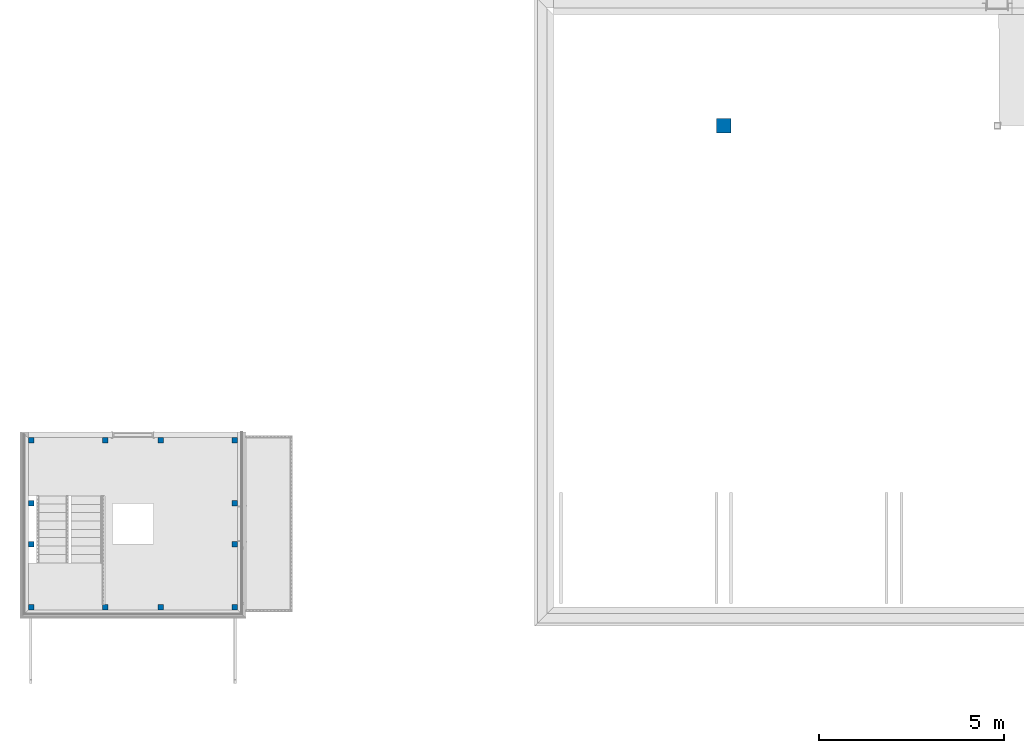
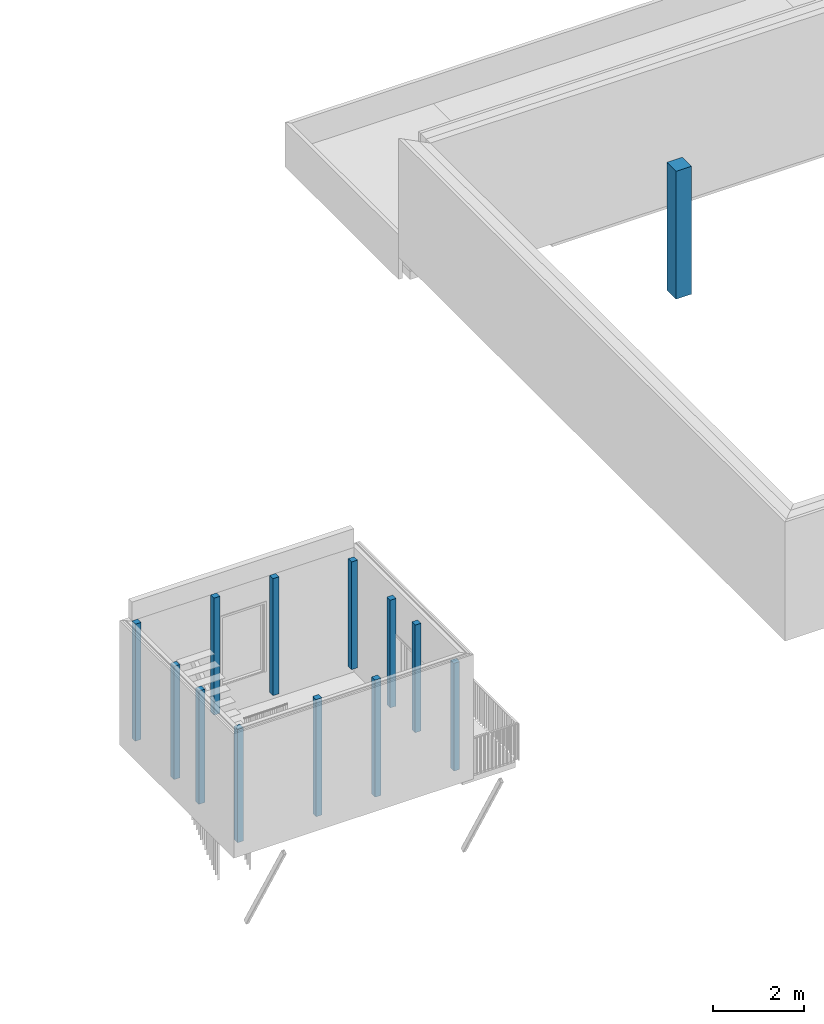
# One storey, part 1 of 100: 13 columns.
"""IFC2X3 building model written with IfcOpenShell, lengths in millimetres."""

from ifc_helpers import new_model, entity, si_unit, converted_unit, derived_unit, money_unit, direction, frame, origin_with_axes, origin_2d_with_axis, place, context, subcontext, project, spatial, rectangle, extrude, material, type_object, element, save


model = new_model("IFC2X3")

# Units and contexts
model_context = context("Model", 3, precision=0.01, world=origin_with_axes(), true_north=direction((0.0, 1.0)))
body_context = subcontext(model_context, "Body", "Model", "MODEL_VIEW")
ifc_project = project(units=[si_unit("LENGTHUNIT", "METRE", prefix="MILLI"), si_unit("AREAUNIT", "SQUARE_METRE"), si_unit("VOLUMEUNIT", "CUBIC_METRE"), converted_unit("PLANEANGLEUNIT", "DEGREE", entity("IfcPlaneAngleMeasure", 0.0174532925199), si_unit("PLANEANGLEUNIT", "RADIAN"), dimensions=[0, 0, 0, 0, 0, 0, 0]), si_unit("SOLIDANGLEUNIT", "STERADIAN"), money_unit("EUR"), converted_unit("TIMEUNIT", "Year", entity("IfcTimeMeasure", 31556926.0), si_unit("TIMEUNIT", "SECOND"), dimensions=[0, 0, 1, 0, 0, 0, 0]), si_unit("MASSUNIT", "GRAM", prefix="KILO"), si_unit("THERMODYNAMICTEMPERATUREUNIT", "DEGREE_CELSIUS"), si_unit("LUMINOUSINTENSITYUNIT", "LUMEN"), si_unit("ENERGYUNIT", "JOULE", prefix="MEGA"), derived_unit("THERMALCONDUCTANCEUNIT", [(si_unit("POWERUNIT", "WATT"), 1), (si_unit("LENGTHUNIT", "METRE"), -1), (si_unit("THERMODYNAMICTEMPERATUREUNIT", "KELVIN"), -1)]), derived_unit("SPECIFICHEATCAPACITYUNIT", [(si_unit("ENERGYUNIT", "JOULE"), 1), (si_unit("MASSUNIT", "GRAM", prefix="KILO"), -1), (si_unit("THERMODYNAMICTEMPERATUREUNIT", "KELVIN"), -1)]), derived_unit("MASSDENSITYUNIT", [(si_unit("MASSUNIT", "GRAM", prefix="KILO"), 1), (si_unit("VOLUMEUNIT", "CUBIC_METRE"), -1)])], contexts=[model_context])

# Site, building, storey
site_placement = place(None, origin_with_axes())
site = spatial("IfcSite", under=ifc_project, at=site_placement, Name="Politse- ja Piirivalveameti ning Päästeameti ühishoone", CompositionType="ELEMENT")
building_placement = place(site_placement, origin_with_axes())
building = spatial("IfcBuilding", under=site, at=building_placement, Name="Politse- ja Piirivalveameti ning Päästeameti ühishoone", CompositionType="ELEMENT")
storey_placement = place(building_placement, frame((0.0, 0.0, 3800.0), z_axis=(0.0, 0.0, 1.0), x_axis=(1.0, 0.0, 0.0)))
storey = spatial("IfcBuildingStorey", under=building, at=storey_placement, Name="Teine korrus", CompositionType="ELEMENT", Elevation=3800.0)

# Columns
ifc_material_1 = material(Name="KON-00_GENEERILINE - KONSTRUKTSIOON")
column_type_1 = type_object("IfcColumnType", Name="KON-00_GENEERILINE - KONSTRUKTSIOON 150 x 150", PredefinedType="COLUMN")
column_1_placement = place(storey_placement, frame((-14107.0, 0.0, -300.0), z_axis=(0.0, 0.0, 1.0), x_axis=(0.0, 1.0, 0.0)))
element("IfcColumn", 1, at=column_1_placement, inside=storey, type_object=column_type_1, material=ifc_material_1, Name="POST", ObjectType="COLUMN", context=body_context, shape_type="SweptSolid", body=[
    extrude(rectangle(XDim=150.0, YDim=150.0, at=origin_2d_with_axis()), origin_with_axes(), (0.0, 0.0, 1.0), 3047.76398344),
])
for number, where, z_axis, x_axis, name in (
    (2, (-14107.0, 4500.4616888, -300.0), (0.0, 0.0, 1.0), (0.0, 1.0, 0.0), "POST"),
    (3, (-10607.0326897, 0.0, -300.0), (0.0, 0.0, 1.0), (0.0, 1.0, 0.0), "POST"),
):
    element("IfcColumn", number, at=place(storey_placement, frame(where, z_axis=z_axis, x_axis=x_axis)), inside=storey, type_object=column_type_1, material=ifc_material_1, Name=name, ObjectType="COLUMN", context=body_context, shape_type="SweptSolid", body=[
        extrude(rectangle(XDim=150.0, YDim=150.0, at=origin_2d_with_axis()), origin_with_axes(), (0.0, 0.0, 1.0), 3147.0),
    ])
for number, where, z_axis, x_axis, name in (
    (4, (-8607.0, 0.0, -300.0), (0.0, 0.0, 1.0), (0.0, 1.0, 0.0), "POST"),
    (5, (-8607.0, 4500.4616888, -300.0), (0.0, 0.0, 1.0), (0.0, 1.0, 0.0), "POST"),
):
    element("IfcColumn", number, at=place(storey_placement, frame(where, z_axis=z_axis, x_axis=x_axis)), inside=storey, type_object=column_type_1, material=ifc_material_1, Name=name, ObjectType="COLUMN", context=body_context, shape_type="SweptSolid", body=[
        extrude(rectangle(XDim=150.0, YDim=150.0, at=origin_2d_with_axis()), origin_with_axes(), (0.0, 0.0, 1.0), 2897.0),
    ])
for number, where, z_axis, x_axis, name in (
    (6, (-10607.0326897, 4500.4616888, -300.0), (0.0, 0.0, 1.0), (0.0, 1.0, 0.0), "POST"),
    (7, (-12107.0326897, 0.0, -300.0), (0.0, 0.0, 1.0), (0.0, 1.0, 0.0), "POST"),
    (8, (-12107.0326897, 4500.4616888, -300.0), (0.0, 0.0, 1.0), (0.0, 1.0, 0.0), "POST"),
):
    element("IfcColumn", number, at=place(storey_placement, frame(where, z_axis=z_axis, x_axis=x_axis)), inside=storey, type_object=column_type_1, material=ifc_material_1, Name=name, ObjectType="COLUMN", context=body_context, shape_type="SweptSolid", body=[
        extrude(rectangle(XDim=150.0, YDim=150.0, at=origin_2d_with_axis()), origin_with_axes(), (0.0, 0.0, 1.0), 3147.0),
    ])
for number, where, z_axis, x_axis, name in (
    (9, (-8607.0, 2800.11493577, -300.0), (0.0, 0.0, 1.0), (0.0, 1.0, 0.0), "POST"),
    (10, (-8607.0, 1700.11493577, -300.0), (0.0, 0.0, 1.0), (0.0, 1.0, 0.0), "POST"),
):
    element("IfcColumn", number, at=place(storey_placement, frame(where, z_axis=z_axis, x_axis=x_axis)), inside=storey, type_object=column_type_1, material=ifc_material_1, Name=name, ObjectType="COLUMN", context=body_context, shape_type="SweptSolid", body=[
        extrude(rectangle(XDim=150.0, YDim=150.0, at=origin_2d_with_axis()), origin_with_axes(), (0.0, 0.0, 1.0), 2897.0),
    ])
for number, where, z_axis, x_axis, name in (
    (11, (-14107.0, 2800.11493577, -300.0), (0.0, 0.0, 1.0), (0.0, 1.0, 0.0), "POST"),
    (12, (-14107.0, 1700.11493577, -300.0), (0.0, 0.0, 1.0), (0.0, 1.0, 0.0), "POST"),
):
    element("IfcColumn", number, at=place(storey_placement, frame(where, z_axis=z_axis, x_axis=x_axis)), inside=storey, type_object=column_type_1, material=ifc_material_1, Name=name, ObjectType="COLUMN", context=body_context, shape_type="SweptSolid", body=[
        extrude(rectangle(XDim=150.0, YDim=150.0, at=origin_2d_with_axis()), origin_with_axes(), (0.0, 0.0, 1.0), 3047.0),
    ])
ifc_material_2 = material(Name="ET-02_Raudbetoon - Toode")
column_type_2 = type_object("IfcColumnType", Name="ET-02_Raudbetoon - Toode 400 x 400", PredefinedType="COLUMN")
column_2_placement = place(storey_placement, frame((4600.00702778, 13000.0198611, 0.0), z_axis=(0.0, 0.0, 1.0), x_axis=(1.0, 0.0, 0.0)))
element("IfcColumn", 13, at=column_2_placement, inside=storey, type_object=column_type_2, material=ifc_material_2, Name="POST", ObjectType="COLUMN", context=body_context, shape_type="SweptSolid", body=[
    extrude(rectangle(XDim=400.0, YDim=400.0, at=origin_2d_with_axis()), origin_with_axes(), (0.0, 0.0, 1.0), 3440.0),
])

save(model, "model.ifc")
